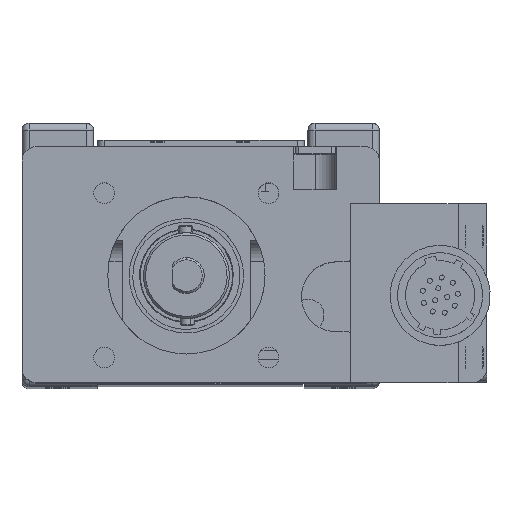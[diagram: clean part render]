
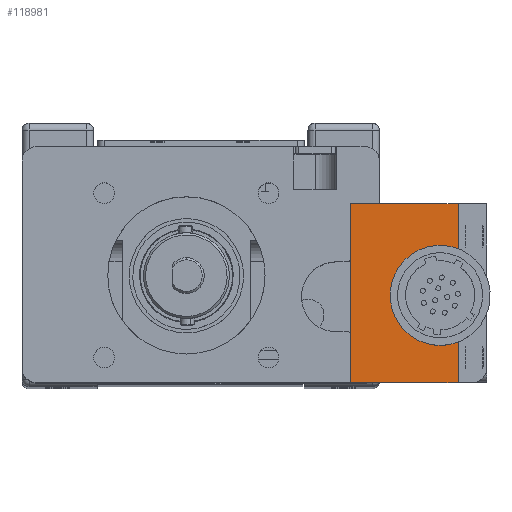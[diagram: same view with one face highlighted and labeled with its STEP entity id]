
A CAD part, top view. The second image highlights one B-rep face of the part: STEP entity #118981.
In plain terms, the highlighted planar face has unit normal (0, 0, 1).
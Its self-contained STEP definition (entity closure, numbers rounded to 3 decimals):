
#2270 = CARTESIAN_POINT ( 'NONE',  ( 36., 25.5, 223. ) ) ;
#7388 = AXIS2_PLACEMENT_3D ( 'NONE', #53197, #30609, #120112 ) ;
#9849 = DIRECTION ( 'NONE',  ( -1., 0., 0. ) ) ;
#11061 = DIRECTION ( 'NONE',  ( -1., 0., 0. ) ) ;
#15469 = EDGE_CURVE ( 'NONE', #29863, #100366, #100517, .T. ) ;
#15863 = VECTOR ( 'NONE', #93959, 1000. ) ;
#16880 = ORIENTED_EDGE ( 'NONE', *, *, #68065, .F. ) ;
#21579 = ORIENTED_EDGE ( 'NONE', *, *, #36910, .F. ) ;
#22812 = LINE ( 'NONE', #53879, #34845 ) ;
#29235 = CARTESIAN_POINT ( 'NONE',  ( 33.5, 17.4, 223. ) ) ;
#29863 = VERTEX_POINT ( 'NONE', #108053 ) ;
#30046 = VERTEX_POINT ( 'NONE', #62555 ) ;
#30609 = DIRECTION ( 'NONE',  ( 0., 0., -1. ) ) ;
#34343 = VECTOR ( 'NONE', #9849, 1000. ) ;
#34731 = VERTEX_POINT ( 'NONE', #126499 ) ;
#34845 = VECTOR ( 'NONE', #51348, 1000. ) ;
#36300 = CARTESIAN_POINT ( 'NONE',  ( 33.5, 17.4, 223. ) ) ;
#36910 = EDGE_CURVE ( 'NONE', #30046, #57966, #91179, .T. ) ;
#39261 = CARTESIAN_POINT ( 'NONE',  ( 35., 6.6, 223. ) ) ;
#40400 = CARTESIAN_POINT ( 'NONE',  ( 21., 0.5, 223. ) ) ;
#42589 = CARTESIAN_POINT ( 'NONE',  ( 36., 18.4, 223. ) ) ;
#47154 = DIRECTION ( 'NONE',  ( 0., -1., 0. ) ) ;
#47518 = ORIENTED_EDGE ( 'NONE', *, *, #113422, .T. ) ;
#47618 = CARTESIAN_POINT ( 'NONE',  ( 35., 17.4, 223. ) ) ;
#49361 = DIRECTION ( 'NONE',  ( 0., 0., 1. ) ) ;
#50766 = AXIS2_PLACEMENT_3D ( 'NONE', #39261, #57386, #95727 ) ;
#51348 = DIRECTION ( 'NONE',  ( -1., 0., 0. ) ) ;
#53197 = CARTESIAN_POINT ( 'NONE',  ( 38., 25.5, 223. ) ) ;
#53879 = CARTESIAN_POINT ( 'NONE',  ( 38., 25.5, 223. ) ) ;
#55723 = CARTESIAN_POINT ( 'NONE',  ( 33.5, 7.6, 223. ) ) ;
#55748 = CARTESIAN_POINT ( 'NONE',  ( 35., 7.6, 223. ) ) ;
#56481 = CARTESIAN_POINT ( 'NONE',  ( 33.5, 12.5, 223. ) ) ;
#57386 = DIRECTION ( 'NONE',  ( 0., 0., 1. ) ) ;
#57397 = EDGE_CURVE ( 'NONE', #122742, #106573, #59032, .T. ) ;
#57966 = VERTEX_POINT ( 'NONE', #42589 ) ;
#59032 = LINE ( 'NONE', #29235, #74531 ) ;
#60413 = FACE_OUTER_BOUND ( 'NONE', #81737, .T. ) ;
#61288 = DIRECTION ( 'NONE',  ( 0., -1., 0. ) ) ;
#62555 = CARTESIAN_POINT ( 'NONE',  ( 36., 25.5, 223. ) ) ;
#64065 = ORIENTED_EDGE ( 'NONE', *, *, #99262, .F. ) ;
#64106 = VERTEX_POINT ( 'NONE', #40400 ) ;
#64738 = LINE ( 'NONE', #73840, #15863 ) ;
#66252 = DIRECTION ( 'NONE',  ( 0., -1., 0. ) ) ;
#68065 = EDGE_CURVE ( 'NONE', #123677, #64106, #68203, .T. ) ;
#68203 = LINE ( 'NONE', #107798, #34343 ) ;
#68429 = CIRCLE ( 'NONE', #85028, 4.9 ) ;
#73004 = ORIENTED_EDGE ( 'NONE', *, *, #111887, .T. ) ;
#73840 = CARTESIAN_POINT ( 'NONE',  ( 36., 25.5, 223. ) ) ;
#74509 = CARTESIAN_POINT ( 'NONE',  ( 36., 0.5, 223. ) ) ;
#74531 = VECTOR ( 'NONE', #11061, 1000. ) ;
#81737 = EDGE_LOOP ( 'NONE', ( #103615, #108200, #21579, #47518, #73004, #16880, #118999, #109061, #64065, #112817 ) ) ;
#85028 = AXIS2_PLACEMENT_3D ( 'NONE', #56481, #49361, #66252 ) ;
#85567 = LINE ( 'NONE', #55723, #88657 ) ;
#86550 = CARTESIAN_POINT ( 'NONE',  ( 35., 18.4, 223. ) ) ;
#88657 = VECTOR ( 'NONE', #96598, 1000. ) ;
#91179 = LINE ( 'NONE', #2270, #102989 ) ;
#93959 = DIRECTION ( 'NONE',  ( 0., -1., 0. ) ) ;
#95727 = DIRECTION ( 'NONE',  ( 0., 1., 0. ) ) ;
#96598 = DIRECTION ( 'NONE',  ( 1., 0., 0. ) ) ;
#98276 = EDGE_CURVE ( 'NONE', #29863, #123677, #64738, .T. ) ;
#99262 = EDGE_CURVE ( 'NONE', #34731, #100366, #85567, .T. ) ;
#100366 = VERTEX_POINT ( 'NONE', #55748 ) ;
#100517 = CIRCLE ( 'NONE', #50766, 1. ) ;
#100645 = PLANE ( 'NONE',  #7388 ) ;
#100936 = CIRCLE ( 'NONE', #111203, 1. ) ;
#101471 = EDGE_CURVE ( 'NONE', #106573, #34731, #68429, .T. ) ;
#102989 = VECTOR ( 'NONE', #61288, 1000. ) ;
#103615 = ORIENTED_EDGE ( 'NONE', *, *, #57397, .F. ) ;
#106573 = VERTEX_POINT ( 'NONE', #36300 ) ;
#107310 = DIRECTION ( 'NONE',  ( 0., 1., 0. ) ) ;
#107798 = CARTESIAN_POINT ( 'NONE',  ( 38., 0.5, 223. ) ) ;
#108053 = CARTESIAN_POINT ( 'NONE',  ( 36., 6.6, 223. ) ) ;
#108200 = ORIENTED_EDGE ( 'NONE', *, *, #121719, .T. ) ;
#109061 = ORIENTED_EDGE ( 'NONE', *, *, #15469, .T. ) ;
#109879 = CARTESIAN_POINT ( 'NONE',  ( 21., 25.5, 223. ) ) ;
#111203 = AXIS2_PLACEMENT_3D ( 'NONE', #86550, #128084, #107310 ) ;
#111887 = EDGE_CURVE ( 'NONE', #125899, #64106, #114052, .T. ) ;
#112817 = ORIENTED_EDGE ( 'NONE', *, *, #101471, .F. ) ;
#113422 = EDGE_CURVE ( 'NONE', #30046, #125899, #22812, .T. ) ;
#113582 = VECTOR ( 'NONE', #47154, 1000. ) ;
#114052 = LINE ( 'NONE', #123778, #113582 ) ;
#118981 = ADVANCED_FACE ( 'NONE', ( #60413 ), #100645, .F. ) ;
#118999 = ORIENTED_EDGE ( 'NONE', *, *, #98276, .F. ) ;
#120112 = DIRECTION ( 'NONE',  ( 0., 1., 0. ) ) ;
#121719 = EDGE_CURVE ( 'NONE', #122742, #57966, #100936, .T. ) ;
#122742 = VERTEX_POINT ( 'NONE', #47618 ) ;
#123677 = VERTEX_POINT ( 'NONE', #74509 ) ;
#123778 = CARTESIAN_POINT ( 'NONE',  ( 21., 25.5, 223. ) ) ;
#125899 = VERTEX_POINT ( 'NONE', #109879 ) ;
#126499 = CARTESIAN_POINT ( 'NONE',  ( 33.5, 7.6, 223. ) ) ;
#128084 = DIRECTION ( 'NONE',  ( 0., 0., 1. ) ) ;
